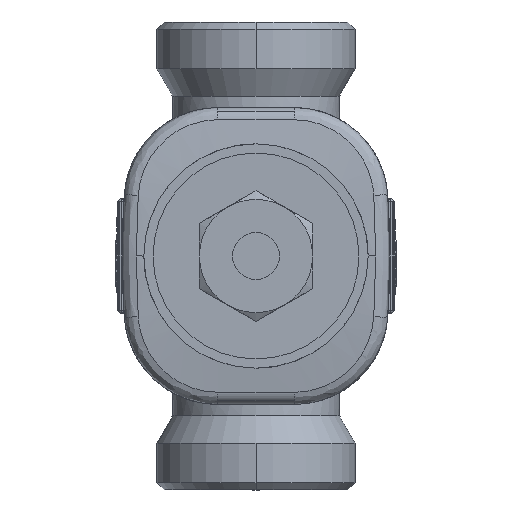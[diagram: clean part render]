
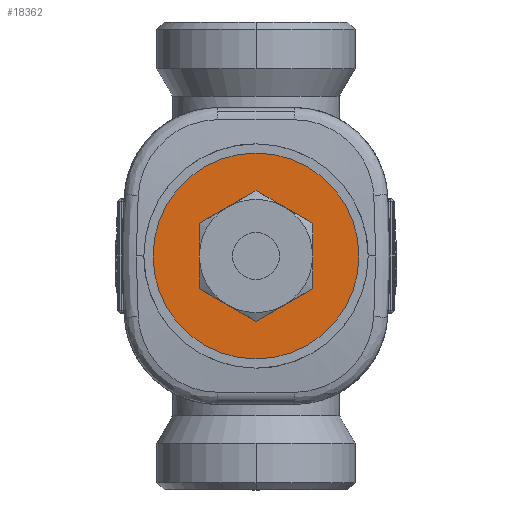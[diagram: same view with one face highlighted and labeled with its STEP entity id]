
A CAD part, front view. The second image highlights one B-rep face of the part: STEP entity #18362.
In plain terms, the highlighted planar face has unit normal (0, -1, 0).
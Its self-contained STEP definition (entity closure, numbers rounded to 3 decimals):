
#18207=CARTESIAN_POINT('',(0.0,-54.0,28.));
#18208=VERTEX_POINT('',#18207);
#18217=CARTESIAN_POINT('',(0.,-54.,72.));
#18218=VERTEX_POINT('',#18217);
#18219=CARTESIAN_POINT('',(0.0,-54.0,50.));
#18220=DIRECTION('',(0.0,1.0,0.0));
#18221=DIRECTION('',(0.0,0.0,-1.0));
#18222=AXIS2_PLACEMENT_3D('',#18219,#18220,#18221);
#18223=CIRCLE('',#18222,22.0);
#18224=EDGE_CURVE('',#18208,#18218,#18223,.T.);
#18314=CARTESIAN_POINT('',(0.0,-54.0,50.));
#18315=DIRECTION('',(0.0,1.0,0.0));
#18316=DIRECTION('',(0.0,0.0,-1.0));
#18317=AXIS2_PLACEMENT_3D('',#18314,#18315,#18316);
#18318=CIRCLE('',#18317,22.0);
#18319=EDGE_CURVE('',#18218,#18208,#18318,.T.);
#18353=CARTESIAN_POINT('',(0.0,-54.0,50.));
#18354=DIRECTION('',(0.0,1.0,0.0));
#18355=DIRECTION('',(1.0,0.0,0.0));
#18356=AXIS2_PLACEMENT_3D('',#18353,#18354,#18355);
#18357=PLANE('',#18356);
#18358=ORIENTED_EDGE('',*,*,#18224,.F.);
#18359=ORIENTED_EDGE('',*,*,#18319,.F.);
#18360=EDGE_LOOP('',(#18358,#18359));
#18361=FACE_OUTER_BOUND('',#18360,.T.);
#18362=ADVANCED_FACE('',(#18361),#18357,.F.);
